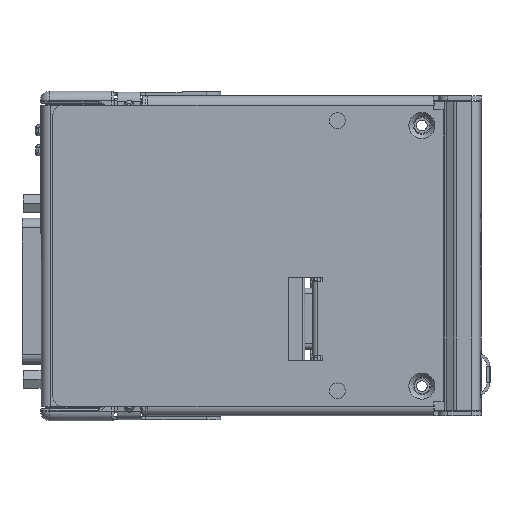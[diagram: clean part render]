
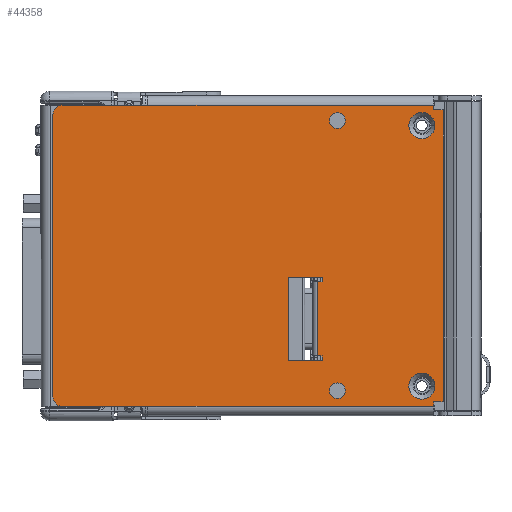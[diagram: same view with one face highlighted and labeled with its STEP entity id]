
A CAD part, front view. The second image highlights one B-rep face of the part: STEP entity #44358.
In plain terms, the highlighted planar face has unit normal (0, -1, 0).
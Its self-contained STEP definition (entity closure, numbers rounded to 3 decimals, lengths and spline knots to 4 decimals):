
#5766=DIRECTION('',(-1.,0.,0.));
#5767=VECTOR('',#5766,3.009);
#5768=CARTESIAN_POINT('',(0.396,-0.978,-3.212));
#5769=LINE('',#5768,#5767);
#5770=DIRECTION('',(0.,0.,-1.));
#5771=VECTOR('',#5770,2.972);
#5772=CARTESIAN_POINT('',(-3.613,-0.978,-0.14));
#5773=LINE('',#5772,#5771);
#5774=DIRECTION('',(-1.,0.,0.));
#5775=VECTOR('',#5774,0.9);
#5776=CARTESIAN_POINT('',(-2.613,-0.978,-0.04));
#5777=LINE('',#5776,#5775);
#5778=DIRECTION('',(-1.,0.,0.));
#5779=VECTOR('',#5778,3.009);
#5780=CARTESIAN_POINT('',(0.396,-0.978,-0.04));
#5781=LINE('',#5780,#5779);
#5782=DIRECTION('',(0.,0.,-1.));
#5783=VECTOR('',#5782,0.05);
#5784=CARTESIAN_POINT('',(0.396,-0.978,-0.04));
#5785=LINE('',#5784,#5783);
#5786=DIRECTION('',(-1.,0.,0.));
#5787=VECTOR('',#5786,0.1);
#5788=CARTESIAN_POINT('',(0.496,-0.978,-0.09));
#5789=LINE('',#5788,#5787);
#5790=DIRECTION('',(0.,0.,1.));
#5791=VECTOR('',#5790,3.072);
#5792=CARTESIAN_POINT('',(0.496,-0.978,-3.162));
#5793=LINE('',#5792,#5791);
#5794=DIRECTION('',(-1.,0.,0.));
#5795=VECTOR('',#5794,0.1);
#5796=CARTESIAN_POINT('',(0.496,-0.978,-3.162));
#5797=LINE('',#5796,#5795);
#5798=DIRECTION('',(0.,0.,1.));
#5799=VECTOR('',#5798,0.05);
#5800=CARTESIAN_POINT('',(0.396,-0.978,-3.212));
#5801=LINE('',#5800,#5799);
#5802=DIRECTION('',(1.,0.,0.));
#5803=VECTOR('',#5802,0.9);
#5804=CARTESIAN_POINT('',(-3.513,-0.978,-3.212));
#5805=LINE('',#5804,#5803);
#5806=DIRECTION('',(0.,0.,1.));
#5807=VECTOR('',#5806,0.05);
#5808=CARTESIAN_POINT('',(-0.779,-0.978,-2.73));
#5809=LINE('',#5808,#5807);
#5810=DIRECTION('',(1.,0.,0.));
#5811=VECTOR('',#5810,0.05);
#5812=CARTESIAN_POINT('',(-0.829,-0.978,-2.68));
#5813=LINE('',#5812,#5811);
#5814=DIRECTION('',(-1.,0.,0.));
#5815=VECTOR('',#5814,0.05);
#5816=CARTESIAN_POINT('',(-0.779,-0.978,-1.9));
#5817=LINE('',#5816,#5815);
#5818=DIRECTION('',(0.,0.,1.));
#5819=VECTOR('',#5818,0.05);
#5820=CARTESIAN_POINT('',(-0.779,-0.978,-1.9));
#5821=LINE('',#5820,#5819);
#5822=DIRECTION('',(-1.,0.,0.));
#5823=VECTOR('',#5822,0.35);
#5824=CARTESIAN_POINT('',(-0.779,-0.978,-1.85));
#5825=LINE('',#5824,#5823);
#5826=DIRECTION('',(0.,0.,-1.));
#5827=VECTOR('',#5826,0.88);
#5828=CARTESIAN_POINT('',(-1.129,-0.978,-1.85));
#5829=LINE('',#5828,#5827);
#5830=DIRECTION('',(1.,0.,0.));
#5831=VECTOR('',#5830,0.35);
#5832=CARTESIAN_POINT('',(-1.129,-0.978,-2.73));
#5833=LINE('',#5832,#5831);
#5834=CARTESIAN_POINT('',(0.273,-0.978,-2.998));
#5835=DIRECTION('',(0.,1.,0.));
#5836=DIRECTION('',(-1.,0.,0.));
#5837=AXIS2_PLACEMENT_3D('',#5834,#5835,#5836);
#5839=CARTESIAN_POINT('',(0.273,-0.978,-2.998));
#5840=DIRECTION('',(0.,1.,0.));
#5841=DIRECTION('',(1.,0.,0.));
#5842=AXIS2_PLACEMENT_3D('',#5839,#5840,#5841);
#5844=CARTESIAN_POINT('',(0.273,-0.978,-0.254));
#5845=DIRECTION('',(0.,1.,0.));
#5846=DIRECTION('',(-1.,0.,0.));
#5847=AXIS2_PLACEMENT_3D('',#5844,#5845,#5846);
#5849=CARTESIAN_POINT('',(0.273,-0.978,-0.254));
#5850=DIRECTION('',(0.,1.,0.));
#5851=DIRECTION('',(1.,0.,0.));
#5852=AXIS2_PLACEMENT_3D('',#5849,#5850,#5851);
#5854=CARTESIAN_POINT('',(-0.617,-0.978,-3.048));
#5855=DIRECTION('',(0.,-1.,0.));
#5856=DIRECTION('',(0.,0.,1.));
#5857=AXIS2_PLACEMENT_3D('',#5854,#5855,#5856);
#5859=CARTESIAN_POINT('',(-0.617,-0.978,-3.048));
#5860=DIRECTION('',(0.,-1.,0.));
#5861=DIRECTION('',(0.,0.,-1.));
#5862=AXIS2_PLACEMENT_3D('',#5859,#5860,#5861);
#5864=CARTESIAN_POINT('',(-0.617,-0.978,-0.204));
#5865=DIRECTION('',(0.,-1.,0.));
#5866=DIRECTION('',(0.,0.,1.));
#5867=AXIS2_PLACEMENT_3D('',#5864,#5865,#5866);
#5869=CARTESIAN_POINT('',(-0.617,-0.978,-0.204));
#5870=DIRECTION('',(0.,-1.,0.));
#5871=DIRECTION('',(0.,0.,-1.));
#5872=AXIS2_PLACEMENT_3D('',#5869,#5870,#5871);
#5887=CARTESIAN_POINT('',(-3.513,-0.978,-3.112));
#5888=DIRECTION('',(0.,-1.,0.));
#5889=DIRECTION('',(-1.,0.,0.));
#5890=AXIS2_PLACEMENT_3D('',#5887,#5888,#5889);
#20159=DIRECTION('',(0.,0.,1.));
#20160=VECTOR('',#20159,0.78);
#20161=CARTESIAN_POINT('',(-0.829,-0.978,-2.68));
#20162=LINE('',#20161,#20160);
#20505=CARTESIAN_POINT('',(-3.513,-0.978,-0.14));
#20506=DIRECTION('',(0.,-1.,0.));
#20507=DIRECTION('',(0.,0.,1.));
#20508=AXIS2_PLACEMENT_3D('',#20505,#20506,#20507);
#32730=CARTESIAN_POINT('',(0.396,-0.978,-0.04));
#32732=VERTEX_POINT('',#32730);
#32733=CARTESIAN_POINT('',(0.396,-0.978,-3.212));
#32735=VERTEX_POINT('',#32733);
#32738=CARTESIAN_POINT('',(-2.613,-0.978,-0.04));
#32740=VERTEX_POINT('',#32738);
#32741=CARTESIAN_POINT('',(-2.613,-0.978,-3.212));
#32743=VERTEX_POINT('',#32741);
#32813=CARTESIAN_POINT('',(-1.129,-0.978,-1.85));
#32814=CARTESIAN_POINT('',(-1.129,-0.978,-2.73));
#32815=VERTEX_POINT('',#32813);
#32816=VERTEX_POINT('',#32814);
#32817=CARTESIAN_POINT('',(-0.779,-0.978,-2.73));
#32818=VERTEX_POINT('',#32817);
#32819=CARTESIAN_POINT('',(-0.779,-0.978,-1.85));
#32820=VERTEX_POINT('',#32819);
#32825=CARTESIAN_POINT('',(-0.779,-0.978,-2.68));
#32826=VERTEX_POINT('',#32825);
#32827=CARTESIAN_POINT('',(-0.779,-0.978,-1.9));
#32828=VERTEX_POINT('',#32827);
#32841=CARTESIAN_POINT('',(-0.829,-0.978,-1.9));
#32842=VERTEX_POINT('',#32841);
#32843=CARTESIAN_POINT('',(-0.829,-0.978,-2.68));
#32844=VERTEX_POINT('',#32843);
#32853=CARTESIAN_POINT('',(0.396,-0.978,-0.09));
#32854=VERTEX_POINT('',#32853);
#32855=CARTESIAN_POINT('',(0.496,-0.978,-0.09));
#32856=VERTEX_POINT('',#32855);
#32857=CARTESIAN_POINT('',(0.496,-0.978,-3.162));
#32858=CARTESIAN_POINT('',(0.396,-0.978,-3.162));
#32859=VERTEX_POINT('',#32857);
#32860=VERTEX_POINT('',#32858);
#32865=CARTESIAN_POINT('',(0.1355,-0.978,-0.254));
#32866=CARTESIAN_POINT('',(0.4105,-0.978,-0.254));
#32867=VERTEX_POINT('',#32865);
#32868=VERTEX_POINT('',#32866);
#32873=CARTESIAN_POINT('',(0.1355,-0.978,-2.998));
#32874=CARTESIAN_POINT('',(0.4105,-0.978,-2.998));
#32875=VERTEX_POINT('',#32873);
#32876=VERTEX_POINT('',#32874);
#32881=CARTESIAN_POINT('',(-0.617,-0.978,-2.9645));
#32882=CARTESIAN_POINT('',(-0.617,-0.978,-3.1315));
#32883=VERTEX_POINT('',#32881);
#32884=VERTEX_POINT('',#32882);
#32885=CARTESIAN_POINT('',(-0.617,-0.978,-0.1205));
#32886=CARTESIAN_POINT('',(-0.617,-0.978,-0.2875));
#32887=VERTEX_POINT('',#32885);
#32888=VERTEX_POINT('',#32886);
#32914=CARTESIAN_POINT('',(-3.513,-0.978,-3.212));
#32916=VERTEX_POINT('',#32914);
#32919=CARTESIAN_POINT('',(-3.613,-0.978,-3.112));
#32920=VERTEX_POINT('',#32919);
#32922=CARTESIAN_POINT('',(-3.613,-0.978,-0.14));
#32924=VERTEX_POINT('',#32922);
#32927=CARTESIAN_POINT('',(-3.513,-0.978,-0.04));
#32928=VERTEX_POINT('',#32927);
#44287=CARTESIAN_POINT('',(0.396,-0.978,-0.04));
#44288=DIRECTION('',(0.,-1.,0.));
#44289=DIRECTION('',(0.,0.,-1.));
#44290=AXIS2_PLACEMENT_3D('',#44287,#44288,#44289);
#44291=PLANE('',#44290);
#44293=ORIENTED_EDGE('',*,*,#44292,.F.);
#44295=ORIENTED_EDGE('',*,*,#44294,.F.);
#44297=ORIENTED_EDGE('',*,*,#44296,.F.);
#44299=ORIENTED_EDGE('',*,*,#44298,.F.);
#44301=ORIENTED_EDGE('',*,*,#44300,.F.);
#44303=ORIENTED_EDGE('',*,*,#44302,.T.);
#44305=ORIENTED_EDGE('',*,*,#44304,.F.);
#44307=ORIENTED_EDGE('',*,*,#44306,.F.);
#44309=ORIENTED_EDGE('',*,*,#44308,.T.);
#44311=ORIENTED_EDGE('',*,*,#44310,.F.);
#44312=ORIENTED_EDGE('',*,*,#44279,.T.);
#44313=ORIENTED_EDGE('',*,*,#43511,.F.);
#44314=EDGE_LOOP('',(#44293,#44295,#44297,#44299,#44301,#44303,#44305,#44307,
#44309,#44311,#44312,#44313));
#44315=FACE_OUTER_BOUND('',#44314,.F.);
#44317=ORIENTED_EDGE('',*,*,#44316,.T.);
#44319=ORIENTED_EDGE('',*,*,#44318,.F.);
#44321=ORIENTED_EDGE('',*,*,#44320,.T.);
#44323=ORIENTED_EDGE('',*,*,#44322,.F.);
#44325=ORIENTED_EDGE('',*,*,#44324,.T.);
#44327=ORIENTED_EDGE('',*,*,#44326,.T.);
#44329=ORIENTED_EDGE('',*,*,#44328,.T.);
#44331=ORIENTED_EDGE('',*,*,#44330,.T.);
#44332=EDGE_LOOP('',(#44317,#44319,#44321,#44323,#44325,#44327,#44329,#44331));
#44333=FACE_BOUND('',#44332,.F.);
#44335=ORIENTED_EDGE('',*,*,#44334,.F.);
#44337=ORIENTED_EDGE('',*,*,#44336,.F.);
#44338=EDGE_LOOP('',(#44335,#44337));
#44339=FACE_BOUND('',#44338,.F.);
#44341=ORIENTED_EDGE('',*,*,#44340,.F.);
#44343=ORIENTED_EDGE('',*,*,#44342,.F.);
#44344=EDGE_LOOP('',(#44341,#44343));
#44345=FACE_BOUND('',#44344,.F.);
#44347=ORIENTED_EDGE('',*,*,#44346,.T.);
#44349=ORIENTED_EDGE('',*,*,#44348,.T.);
#44350=EDGE_LOOP('',(#44347,#44349));
#44351=FACE_BOUND('',#44350,.F.);
#44353=ORIENTED_EDGE('',*,*,#44352,.T.);
#44355=ORIENTED_EDGE('',*,*,#44354,.T.);
#44356=EDGE_LOOP('',(#44353,#44355));
#44357=FACE_BOUND('',#44356,.F.);
#44358=ADVANCED_FACE('',(#44315,#44333,#44339,#44345,#44351,#44357),#44291,.T.);
#5838=CIRCLE('',#5837,0.1375);
#5843=CIRCLE('',#5842,0.1375);
#5848=CIRCLE('',#5847,0.1375);
#5853=CIRCLE('',#5852,0.1375);
#5858=CIRCLE('',#5857,0.0835);
#5863=CIRCLE('',#5862,0.0835);
#5868=CIRCLE('',#5867,0.0835);
#5873=CIRCLE('',#5872,0.0835);
#5891=CIRCLE('',#5890,0.1);
#20509=CIRCLE('',#20508,0.1);
#43511=EDGE_CURVE('',#32916,#32743,#5805,.T.);
#44279=EDGE_CURVE('',#32735,#32743,#5769,.T.);
#44292=EDGE_CURVE('',#32920,#32916,#5891,.T.);
#44294=EDGE_CURVE('',#32924,#32920,#5773,.T.);
#44296=EDGE_CURVE('',#32928,#32924,#20509,.T.);
#44298=EDGE_CURVE('',#32740,#32928,#5777,.T.);
#44300=EDGE_CURVE('',#32732,#32740,#5781,.T.);
#44302=EDGE_CURVE('',#32732,#32854,#5785,.T.);
#44304=EDGE_CURVE('',#32856,#32854,#5789,.T.);
#44306=EDGE_CURVE('',#32859,#32856,#5793,.T.);
#44308=EDGE_CURVE('',#32859,#32860,#5797,.T.);
#44310=EDGE_CURVE('',#32735,#32860,#5801,.T.);
#44316=EDGE_CURVE('',#32818,#32826,#5809,.T.);
#44318=EDGE_CURVE('',#32844,#32826,#5813,.T.);
#44320=EDGE_CURVE('',#32844,#32842,#20162,.T.);
#44322=EDGE_CURVE('',#32828,#32842,#5817,.T.);
#44324=EDGE_CURVE('',#32828,#32820,#5821,.T.);
#44326=EDGE_CURVE('',#32820,#32815,#5825,.T.);
#44328=EDGE_CURVE('',#32815,#32816,#5829,.T.);
#44330=EDGE_CURVE('',#32816,#32818,#5833,.T.);
#44334=EDGE_CURVE('',#32875,#32876,#5838,.T.);
#44336=EDGE_CURVE('',#32876,#32875,#5843,.T.);
#44340=EDGE_CURVE('',#32867,#32868,#5848,.T.);
#44342=EDGE_CURVE('',#32868,#32867,#5853,.T.);
#44346=EDGE_CURVE('',#32883,#32884,#5858,.T.);
#44348=EDGE_CURVE('',#32884,#32883,#5863,.T.);
#44352=EDGE_CURVE('',#32887,#32888,#5868,.T.);
#44354=EDGE_CURVE('',#32888,#32887,#5873,.T.);
